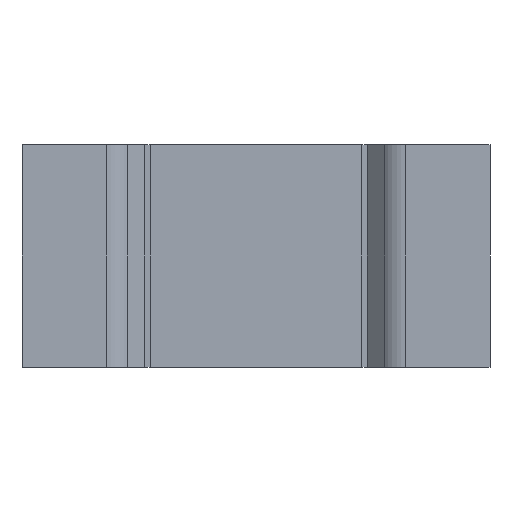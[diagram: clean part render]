
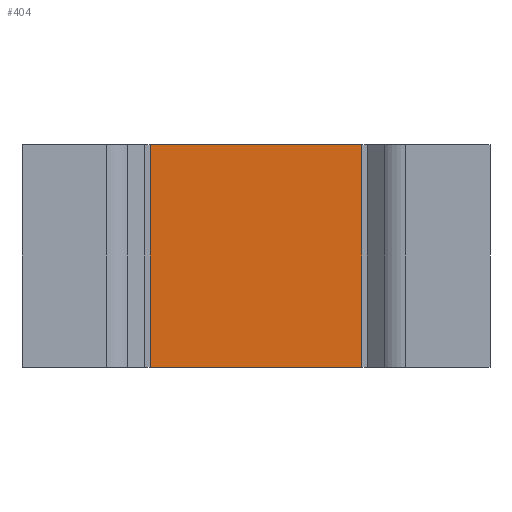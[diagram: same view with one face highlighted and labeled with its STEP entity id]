
A CAD part, front view. The second image highlights one B-rep face of the part: STEP entity #404.
In plain terms, the highlighted planar face has unit normal (0, -1, 0).
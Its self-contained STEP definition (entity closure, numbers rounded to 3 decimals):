
#22 = ORIENTED_EDGE ( 'NONE', *, *, #2807, .F. ) ;
#128 = VECTOR ( 'NONE', #3133, 1000. ) ;
#156 = CARTESIAN_POINT ( 'NONE',  ( -1.425, 0., 1.5 ) ) ;
#404 = ADVANCED_FACE ( 'NONE', ( #2719 ), #2239, .F. ) ;
#455 = VERTEX_POINT ( 'NONE', #781 ) ;
#746 = CARTESIAN_POINT ( 'NONE',  ( 1.425, 0., 1.5 ) ) ;
#781 = CARTESIAN_POINT ( 'NONE',  ( 1.425, 0., 1.5 ) ) ;
#826 = CARTESIAN_POINT ( 'NONE',  ( -1.425, 0., -1.5 ) ) ;
#994 = VERTEX_POINT ( 'NONE', #2649 ) ;
#1051 = VECTOR ( 'NONE', #3755, 1000. ) ;
#1085 = DIRECTION ( 'NONE',  ( 1., 0., 0. ) ) ;
#1172 = EDGE_CURVE ( 'NONE', #455, #994, #4202, .T. ) ;
#1519 = CARTESIAN_POINT ( 'NONE',  ( -1.425, 0., 1.5 ) ) ;
#1531 = AXIS2_PLACEMENT_3D ( 'NONE', #6088, #2147, #6187 ) ;
#1889 = VERTEX_POINT ( 'NONE', #1519 ) ;
#2147 = DIRECTION ( 'NONE',  ( 0., 1., 0. ) ) ;
#2239 = PLANE ( 'NONE',  #1531 ) ;
#2582 = LINE ( 'NONE', #3682, #3022 ) ;
#2649 = CARTESIAN_POINT ( 'NONE',  ( 1.425, 0., -1.5 ) ) ;
#2719 = FACE_OUTER_BOUND ( 'NONE', #5631, .T. ) ;
#2790 = EDGE_CURVE ( 'NONE', #1889, #6246, #2582, .T. ) ;
#2807 = EDGE_CURVE ( 'NONE', #1889, #455, #3101, .T. ) ;
#2868 = VECTOR ( 'NONE', #1085, 1000. ) ;
#3022 = VECTOR ( 'NONE', #4555, 1000. ) ;
#3101 = LINE ( 'NONE', #156, #128 ) ;
#3133 = DIRECTION ( 'NONE',  ( 1., 0., 0. ) ) ;
#3476 = CARTESIAN_POINT ( 'NONE',  ( -1.425, 0., -1.5 ) ) ;
#3682 = CARTESIAN_POINT ( 'NONE',  ( -1.425, 0., 1.5 ) ) ;
#3755 = DIRECTION ( 'NONE',  ( 0., 0., -1. ) ) ;
#3894 = ORIENTED_EDGE ( 'NONE', *, *, #2790, .T. ) ;
#4202 = LINE ( 'NONE', #746, #1051 ) ;
#4207 = ORIENTED_EDGE ( 'NONE', *, *, #5340, .T. ) ;
#4555 = DIRECTION ( 'NONE',  ( 0., 0., -1. ) ) ;
#4808 = ORIENTED_EDGE ( 'NONE', *, *, #1172, .F. ) ;
#5340 = EDGE_CURVE ( 'NONE', #6246, #994, #6394, .T. ) ;
#5631 = EDGE_LOOP ( 'NONE', ( #4207, #4808, #22, #3894 ) ) ;
#6088 = CARTESIAN_POINT ( 'NONE',  ( -1.425, 0., 1.5 ) ) ;
#6187 = DIRECTION ( 'NONE',  ( 0., 0., 1. ) ) ;
#6246 = VERTEX_POINT ( 'NONE', #826 ) ;
#6394 = LINE ( 'NONE', #3476, #2868 ) ;
